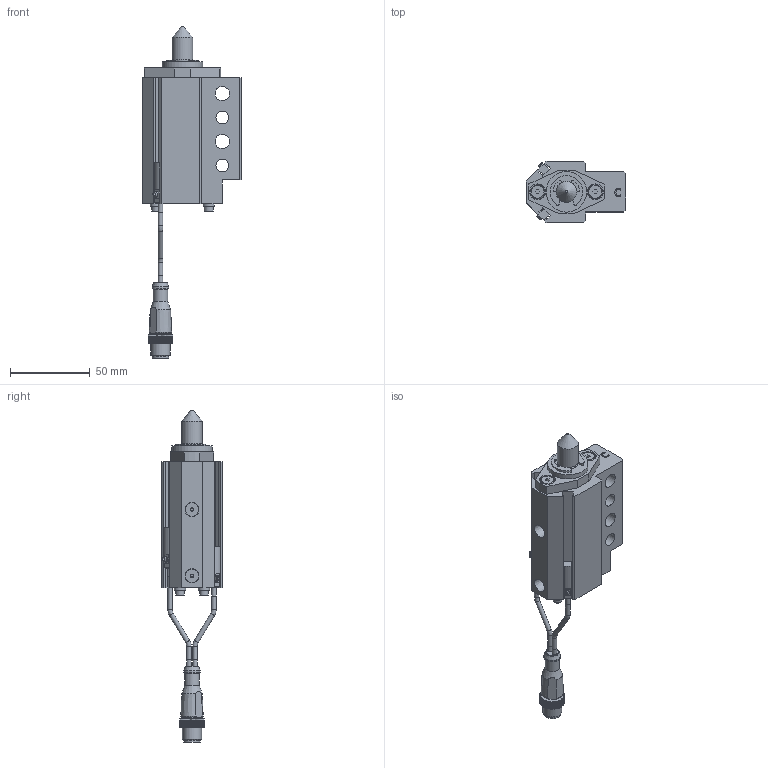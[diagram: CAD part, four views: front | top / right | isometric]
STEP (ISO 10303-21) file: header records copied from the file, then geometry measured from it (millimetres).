
FILE_DESCRIPTION(/* description */ ('NAAMS FLOATING MICRO PIN'),/* implementation_level */ '2;1');
FILE_NAME(/* name */ 'C:\Vault Workspace\CAD\Welker\Shot Pin\NMP\NMP130012ACNL3.stp',/* time_stamp */ '2021-01-27T10:59:12-05:00',/* author */ ('WELKER'),/* organization */ (''),/* preprocessor_version */ 'ST-DEVELOPER v18.1',/* originating_system */ 'Autodesk Inventor 2020',/* authorisation */ '');
FILE_SCHEMA (('AUTOMOTIVE_DESIGN { 1 0 10303 214 3 1 1 }'));
Length unit declared in the file: millimetre
Products named in the file (16): NMPL01; NMP L3 SWITCH; L3 Connector; L3 Sensor 1; L3 Sensor 2; L3 Sensor cable; L3 Sensor cable 2; M3X0.5-8 SHCS; NL3; NMPE06; NMPE03; NMPE05-DIA-LENGTH; 985432A218; NMPE01C-PORT; RMPE02; M5X5 SHOULDER
Assembly tree (22 placements, depth 3):
  NMPL01
    NMP L3 SWITCH
      L3 Connector
      L3 Sensor 1
      L3 Sensor 2
      L3 Sensor cable
      L3 Sensor cable 2
    M3X0.5-8 SHCS  x4
    NL3  x4
    NMPE06
    NMPE03
    NMPE05-DIA-LENGTH
    985432A218
    NMPE01C-PORT
    RMPE02
    M5X5 SHOULDER  x2
Bounding box: 62 x 38.1 x 207.71 mm (x, y, z)
Volume: 111322.2 mm3; surface area: 45434.2 mm2
Topology: 21 solids, 21 shells, 750 faces, 2035 edges, 1360 vertices
Faces by surface type: plane 544, cylinder 143, cone 31, bspline 18, torus 11, sphere 3
Full cylindrical faces by diameter (mm): 2 x2, 2.459 x4, 2.9 x10, 3 x5, 3.242 x2, 3.4 x4, 4 x2, 5 x6, 5.5 x4, 7 x4, 8 x2, 8.3 x2, 9 x5, 10 x3, 10.4 x1, 10.5 x1, 12 x1, 13 x3, 16 x2, 19.05 x3, 21 x1, 22.5 x1, 23.672 x1, 24 x1, 25.4 x1, 25.5 x1, 26.5 x1, 28.677 x1, 29.21 x1, 31.75 x2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
Entity records: 22996 total; most frequent: CARTESIAN_POINT 4356, ORIENTED_EDGE 3768, DIRECTION 3682, EDGE_CURVE 1884, LINE 1376, VECTOR 1376, VERTEX_POINT 1265, AXIS2_PLACEMENT_3D 1153
